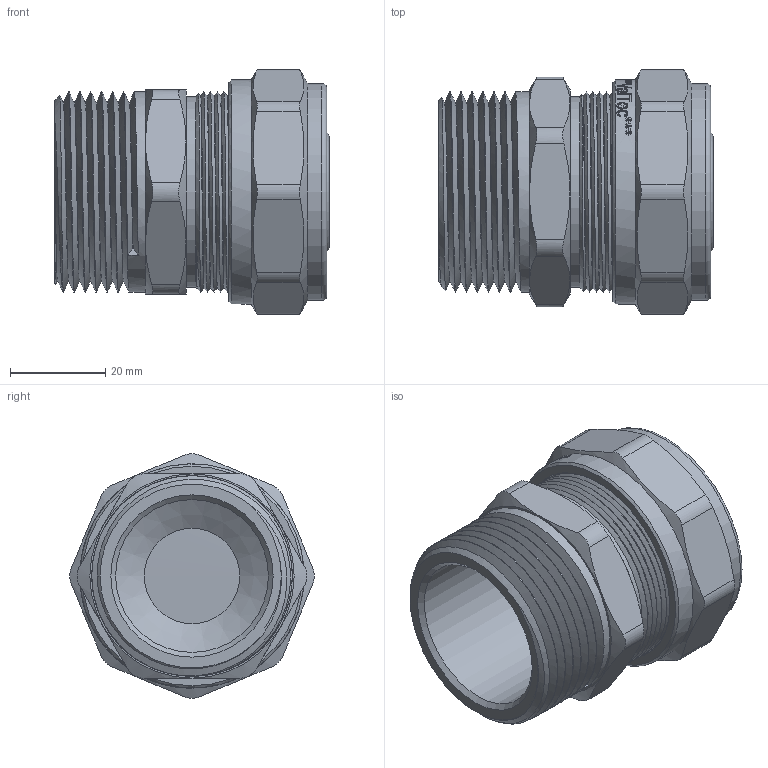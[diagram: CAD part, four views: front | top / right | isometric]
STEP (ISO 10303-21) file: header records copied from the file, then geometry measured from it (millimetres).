
FILE_DESCRIPTION(/* description */ (''),/* implementation_level */ '2;1');
FILE_NAME(/* name */ 'E:\Артём\00000\Работа удаленка\Обжимные фитинги\VTm.301.N.003207.stp',/* time_stamp */ '2020-05-22T10:50:12+03:00',/* author */ ('BeN_GaN'),/* organization */ (''),/* preprocessor_version */ 'ST-DEVELOPER v18',/* originating_system */ 'Autodesk Inventor 2020',/* authorisation */ '');
FILE_SCHEMA (('AUTOMOTIVE_DESIGN { 1 0 10303 214 3 1 1 }'));
Length unit declared in the file: millimetre
Products named in the file (1): VTm.301.N.003207
Bounding box: 57.5 x 51.3 x 51.3 mm (x, y, z)
Volume: 46701.9 mm3; surface area: 27593.6 mm2
Topology: 1 solids, 1 shells, 698 faces, 1988 edges, 1342 vertices
Faces by surface type: bspline 371, plane 174, cylinder 99, cone 30, torus 24
Full cylindrical faces by diameter (mm): 20 x1, 23.4 x2, 25.75 x5, 30.538 x4, 31.683 x5, 32 x1, 32.2 x1, 32.7 x1, 35.5 x1, 37.4 x7, 40 x1, 40.38 x6, 40.5 x1, 42 x7, 45.5 x1, 47 x1
Entity records: 31945 total; most frequent: CARTESIAN_POINT 16269, ORIENTED_EDGE 3976, DIRECTION 2052, EDGE_CURVE 1988, VERTEX_POINT 1342, B_SPLINE_CURVE_WITH_KNOTS 855, LINE 790, VECTOR 790
